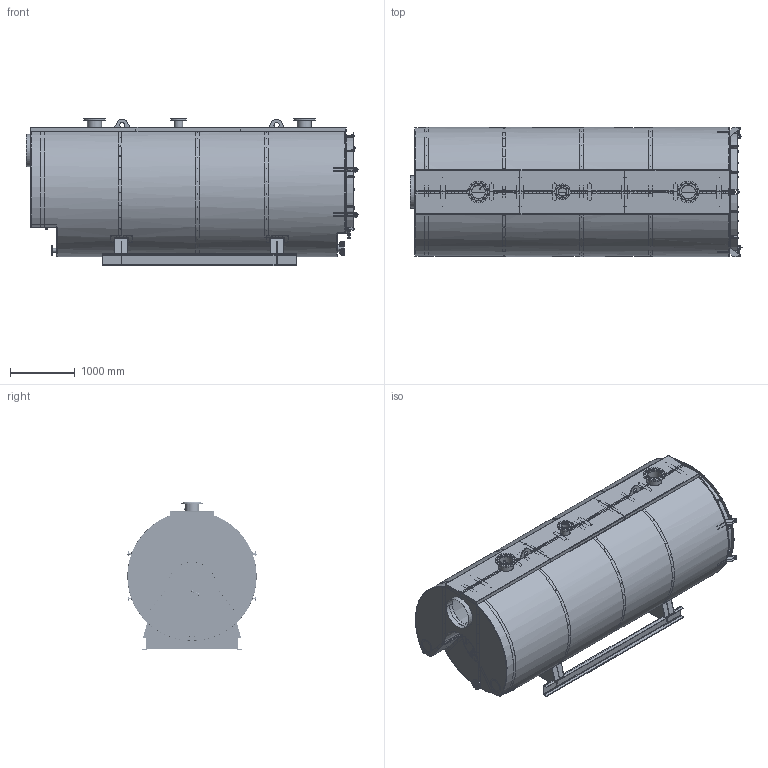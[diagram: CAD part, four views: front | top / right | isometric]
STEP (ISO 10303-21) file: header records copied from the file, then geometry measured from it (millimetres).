
FILE_DESCRIPTION(('STEP AP203'), '1');
FILE_NAME('Titan 3FT - 4500', '2023-01-18T08:44:19', ('User'), (''), 'ASCON STEP Converter 1.6', 'ASCON Math Kernel', '');
FILE_SCHEMA(('CONFIG_CONTROL_DESIGN'));
Length unit declared in the file: millimetre
Products named in the file (1): КЕВМ.3135.00.00.000-010
Bounding box: 5142 x 2002.18 x 2277 mm (x, y, z)
Volume: 114886626.7 mm3; surface area: 105194231.5 mm2
Topology: 376 solids, 376 shells, 4296 faces, 10175 edges, 6640 vertices
Faces by surface type: plane 2471, cylinder 1145, cone 335, bspline 253, torus 84, sphere 8
Full cylindrical faces by diameter (mm): 2 x2, 3.2 x4, 4.1 x101, 5 x8, 6 x32, 6.647 x8, 8 x16, 8.376 x2, 8.4 x8, 10 x17, 10.106 x16, 10.3 x8, 10.5 x1, 12 x74, 13 x27, 13.835 x20, 14 x26, 15 x28, 15.1 x1, 16 x22, 17 x8, 17.5 x16, 18 x32, 20 x17, 20.4 x1, 21.2 x2, 22 x24, 23.12 x8, 24 x17, 26.441 x2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
Entity records: 262802 total; most frequent: CARTESIAN_POINT 129878, DIRECTION 18739, ORIENTED_EDGE 17834, EDGE_CURVE 8917, AXIS2_PLACEMENT_3D 7281, EDGE_LOOP 6807, VERTEX_POINT 6609, FACE_BOUND 4886
